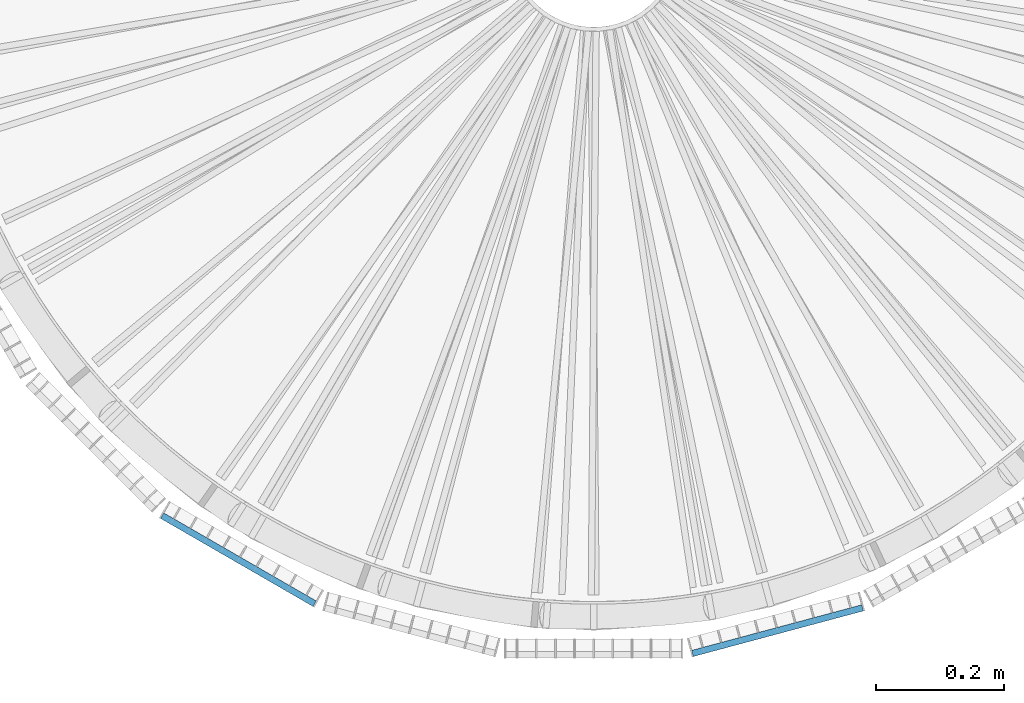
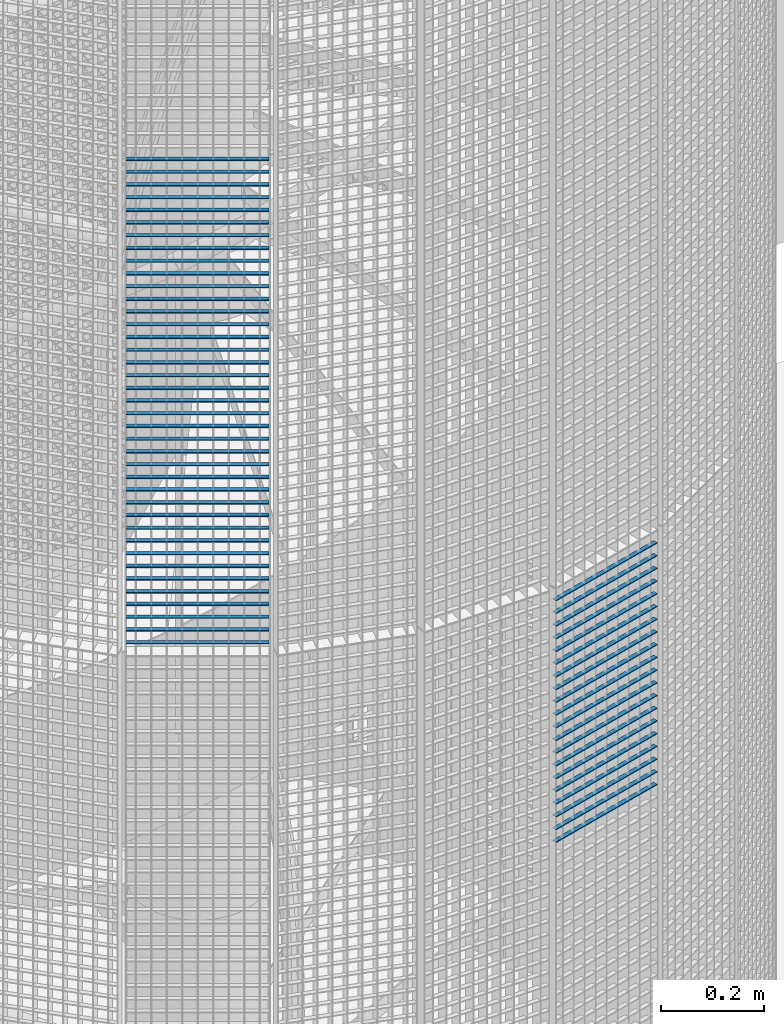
# One storey, part 141 of 1183: 59 beams, 2 elements without a shape of their own.
"""IFC2X3 building model written with IfcOpenShell, lengths in millimetres."""

from ifc_helpers import new_model, si_unit, frame, origin_with_axes, origin_2d_with_axis, place, context, subcontext, project, spatial, rectangle, extrude, material, type_object, element, aggregate, save


model = new_model("IFC2X3")

# Units and contexts
model_context = context("Model", 3, precision=1e-05, world=origin_with_axes())
body_context = subcontext(model_context, "Body", "Model", "MODEL_VIEW")
ifc_project = project(units=[si_unit("LENGTHUNIT", "METRE", prefix="MILLI"), si_unit("AREAUNIT", "SQUARE_METRE"), si_unit("VOLUMEUNIT", "CUBIC_METRE"), si_unit("MASSUNIT", "GRAM", prefix="KILO"), si_unit("TIMEUNIT", "SECOND"), si_unit("PLANEANGLEUNIT", "RADIAN"), si_unit("SOLIDANGLEUNIT", "STERADIAN"), si_unit("THERMODYNAMICTEMPERATUREUNIT", "DEGREE_CELSIUS"), si_unit("LUMINOUSINTENSITYUNIT", "LUMEN")], contexts=[model_context])

# Site, building, storey
site_placement = place(None, origin_with_axes())
site = spatial("IfcSite", under=ifc_project, at=site_placement, Name="Undefined", CompositionType="ELEMENT")
building_placement = place(site_placement, origin_with_axes())
building = spatial("IfcBuilding", under=site, at=building_placement, Name="Undefined", CompositionType="ELEMENT")
storey_placement = place(building_placement, origin_with_axes())
storey = spatial("IfcBuildingStorey", under=building, at=storey_placement, Name="Undefined", CompositionType="ELEMENT", Elevation=0.0)

# Assembly, beams
assembly_1_placement = place(storey_placement, origin_with_axes())
assembly_1 = element("IfcElementAssembly", 1, at=assembly_1_placement, inside=storey, Name="BORDURE", AssemblyPlace="NOTDEFINED", PredefinedType="NOTDEFINED")
ifc_material = material(Name="STEEL/S235JR")
beam_type = type_object("IfcBeamType", Name="PL2*10", PredefinedType="NOTDEFINED")
beam_1_placement = place(assembly_1_placement, frame((-676.248044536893, -895.303964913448, 16170.0), z_axis=(-0.49999999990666, -0.866025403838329, 0.0), x_axis=(0.866025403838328, -0.49999999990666, 0.0)))
beam_1 = element("IfcBeam", 2, at=beam_1_placement, type_object=beam_type, material=ifc_material, Name="ENTRETOISE", context=body_context, shape_type="SweptSolid", body=[
    extrude(rectangle(XDim=2.0, YDim=10.0, at=origin_2d_with_axis()), frame((275.999999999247, 9.09494701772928e-13, 1.53210777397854e-14), z_axis=(-1.0, 0.0, 0.0), x_axis=(0.0, -1.0, 0.0)), (0.0, 0.0, 1.0), 276.0),
])
beam_2_placement = place(assembly_1_placement, frame((-676.248044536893, -895.303964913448, 16140.0), z_axis=(-0.49999999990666, -0.866025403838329, 0.0), x_axis=(0.866025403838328, -0.49999999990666, 0.0)))
beam_2 = element("IfcBeam", 3, at=beam_2_placement, type_object=beam_type, material=ifc_material, Name="ENTRETOISE", context=body_context, shape_type="SweptSolid", body=[
    extrude(rectangle(XDim=2.0, YDim=10.0, at=origin_2d_with_axis()), frame((275.999999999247, 9.09494701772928e-13, 1.53210777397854e-14), z_axis=(-1.0, 0.0, 0.0), x_axis=(0.0, -1.0, 0.0)), (0.0, 0.0, 1.0), 276.0),
])
beam_3_placement = place(assembly_1_placement, frame((-676.248044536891, -895.303964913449, 15720.0), z_axis=(-0.49999999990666, -0.866025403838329, 0.0), x_axis=(0.866025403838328, -0.49999999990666, 0.0)))
beam_3 = element("IfcBeam", 4, at=beam_3_placement, type_object=beam_type, material=ifc_material, Name="ENTRETOISE", context=body_context, shape_type="SweptSolid", body=[
    extrude(rectangle(XDim=2.0, YDim=10.0, at=origin_2d_with_axis()), frame((275.999999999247, 9.09494701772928e-13, 1.53210777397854e-14), z_axis=(-1.0, 0.0, 0.0), x_axis=(0.0, -1.0, 0.0)), (0.0, 0.0, 1.0), 276.0),
])
beam_4_placement = place(assembly_1_placement, frame((-676.248044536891, -895.303964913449, 15690.0), z_axis=(-0.49999999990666, -0.866025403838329, 0.0), x_axis=(0.866025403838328, -0.49999999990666, 0.0)))
beam_4 = element("IfcBeam", 5, at=beam_4_placement, type_object=beam_type, material=ifc_material, Name="ENTRETOISE", context=body_context, shape_type="SweptSolid", body=[
    extrude(rectangle(XDim=2.0, YDim=10.0, at=origin_2d_with_axis()), frame((275.999999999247, 9.09494701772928e-13, 1.53210777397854e-14), z_axis=(-1.0, 0.0, 0.0), x_axis=(0.0, -1.0, 0.0)), (0.0, 0.0, 1.0), 276.0),
])
beam_5_placement = place(assembly_1_placement, frame((-676.248044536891, -895.303964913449, 15750.0), z_axis=(-0.49999999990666, -0.866025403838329, 0.0), x_axis=(0.866025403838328, -0.49999999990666, 0.0)))
beam_5 = element("IfcBeam", 6, at=beam_5_placement, type_object=beam_type, material=ifc_material, Name="ENTRETOISE", context=body_context, shape_type="SweptSolid", body=[
    extrude(rectangle(XDim=2.0, YDim=10.0, at=origin_2d_with_axis()), frame((275.999999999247, 9.09494701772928e-13, 1.53210777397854e-14), z_axis=(-1.0, 0.0, 0.0), x_axis=(0.0, -1.0, 0.0)), (0.0, 0.0, 1.0), 276.0),
])
beam_6_placement = place(assembly_1_placement, frame((-676.248044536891, -895.303964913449, 15660.0), z_axis=(-0.49999999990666, -0.866025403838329, 0.0), x_axis=(0.866025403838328, -0.49999999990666, 0.0)))
beam_6 = element("IfcBeam", 7, at=beam_6_placement, type_object=beam_type, material=ifc_material, Name="ENTRETOISE", context=body_context, shape_type="SweptSolid", body=[
    extrude(rectangle(XDim=2.0, YDim=10.0, at=origin_2d_with_axis()), frame((275.999999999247, 9.09494701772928e-13, 1.53210777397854e-14), z_axis=(-1.0, 0.0, 0.0), x_axis=(0.0, -1.0, 0.0)), (0.0, 0.0, 1.0), 276.0),
])
beam_7_placement = place(assembly_1_placement, frame((-676.248044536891, -895.303964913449, 15630.0), z_axis=(-0.49999999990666, -0.866025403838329, 0.0), x_axis=(0.866025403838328, -0.49999999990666, 0.0)))
beam_7 = element("IfcBeam", 8, at=beam_7_placement, type_object=beam_type, material=ifc_material, Name="ENTRETOISE", context=body_context, shape_type="SweptSolid", body=[
    extrude(rectangle(XDim=2.0, YDim=10.0, at=origin_2d_with_axis()), frame((275.999999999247, 9.09494701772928e-13, 1.53210777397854e-14), z_axis=(-1.0, 0.0, 0.0), x_axis=(0.0, -1.0, 0.0)), (0.0, 0.0, 1.0), 276.0),
])
beam_8_placement = place(assembly_1_placement, frame((-676.248044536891, -895.303964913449, 15780.0), z_axis=(-0.49999999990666, -0.866025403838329, 0.0), x_axis=(0.866025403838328, -0.49999999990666, 0.0)))
beam_8 = element("IfcBeam", 9, at=beam_8_placement, type_object=beam_type, material=ifc_material, Name="ENTRETOISE", context=body_context, shape_type="SweptSolid", body=[
    extrude(rectangle(XDim=2.0, YDim=10.0, at=origin_2d_with_axis()), frame((275.999999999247, 9.09494701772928e-13, 1.53210777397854e-14), z_axis=(-1.0, 0.0, 0.0), x_axis=(0.0, -1.0, 0.0)), (0.0, 0.0, 1.0), 276.0),
])
beam_9_placement = place(assembly_1_placement, frame((-676.248044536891, -895.30396491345, 15600.0), z_axis=(-0.49999999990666, -0.866025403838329, 0.0), x_axis=(0.866025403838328, -0.49999999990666, 0.0)))
beam_9 = element("IfcBeam", 10, at=beam_9_placement, type_object=beam_type, material=ifc_material, Name="ENTRETOISE", context=body_context, shape_type="SweptSolid", body=[
    extrude(rectangle(XDim=2.0, YDim=10.0, at=origin_2d_with_axis()), frame((275.999999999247, 9.09494701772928e-13, 1.53210777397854e-14), z_axis=(-1.0, 0.0, 0.0), x_axis=(0.0, -1.0, 0.0)), (0.0, 0.0, 1.0), 276.0),
])
beam_10_placement = place(assembly_1_placement, frame((-676.248044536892, -895.303964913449, 15810.0), z_axis=(-0.49999999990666, -0.866025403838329, 0.0), x_axis=(0.866025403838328, -0.49999999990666, 0.0)))
beam_10 = element("IfcBeam", 11, at=beam_10_placement, type_object=beam_type, material=ifc_material, Name="ENTRETOISE", context=body_context, shape_type="SweptSolid", body=[
    extrude(rectangle(XDim=2.0, YDim=10.0, at=origin_2d_with_axis()), frame((275.999999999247, 9.09494701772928e-13, 1.53210777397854e-14), z_axis=(-1.0, 0.0, 0.0), x_axis=(0.0, -1.0, 0.0)), (0.0, 0.0, 1.0), 276.0),
])
beam_11_placement = place(assembly_1_placement, frame((-676.248044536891, -895.30396491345, 15570.0), z_axis=(-0.49999999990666, -0.866025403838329, 0.0), x_axis=(0.866025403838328, -0.49999999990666, 0.0)))
beam_11 = element("IfcBeam", 12, at=beam_11_placement, type_object=beam_type, material=ifc_material, Name="ENTRETOISE", context=body_context, shape_type="SweptSolid", body=[
    extrude(rectangle(XDim=2.0, YDim=10.0, at=origin_2d_with_axis()), frame((275.999999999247, 9.09494701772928e-13, 1.53210777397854e-14), z_axis=(-1.0, 0.0, 0.0), x_axis=(0.0, -1.0, 0.0)), (0.0, 0.0, 1.0), 276.0),
])
beam_12_placement = place(assembly_1_placement, frame((-676.248044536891, -895.30396491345, 15540.0), z_axis=(-0.49999999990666, -0.866025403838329, 0.0), x_axis=(0.866025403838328, -0.49999999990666, 0.0)))
beam_12 = element("IfcBeam", 13, at=beam_12_placement, type_object=beam_type, material=ifc_material, Name="ENTRETOISE", context=body_context, shape_type="SweptSolid", body=[
    extrude(rectangle(XDim=2.0, YDim=10.0, at=origin_2d_with_axis()), frame((275.999999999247, 9.09494701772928e-13, 1.53210777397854e-14), z_axis=(-1.0, 0.0, 0.0), x_axis=(0.0, -1.0, 0.0)), (0.0, 0.0, 1.0), 276.0),
])
beam_13_placement = place(assembly_1_placement, frame((-676.248044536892, -895.303964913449, 15840.0), z_axis=(-0.49999999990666, -0.866025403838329, 0.0), x_axis=(0.866025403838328, -0.49999999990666, 0.0)))
beam_13 = element("IfcBeam", 14, at=beam_13_placement, type_object=beam_type, material=ifc_material, Name="ENTRETOISE", context=body_context, shape_type="SweptSolid", body=[
    extrude(rectangle(XDim=2.0, YDim=10.0, at=origin_2d_with_axis()), frame((275.999999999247, 9.09494701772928e-13, 1.53210777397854e-14), z_axis=(-1.0, 0.0, 0.0), x_axis=(0.0, -1.0, 0.0)), (0.0, 0.0, 1.0), 276.0),
])
beam_14_placement = place(assembly_1_placement, frame((-676.248044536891, -895.303964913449, 15510.0), z_axis=(-0.49999999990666, -0.866025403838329, 0.0), x_axis=(0.866025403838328, -0.49999999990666, 0.0)))
beam_14 = element("IfcBeam", 15, at=beam_14_placement, type_object=beam_type, material=ifc_material, Name="ENTRETOISE", context=body_context, shape_type="SweptSolid", body=[
    extrude(rectangle(XDim=2.0, YDim=10.0, at=origin_2d_with_axis()), frame((275.999999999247, 9.09494701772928e-13, 1.53210777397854e-14), z_axis=(-1.0, 0.0, 0.0), x_axis=(0.0, -1.0, 0.0)), (0.0, 0.0, 1.0), 276.0),
])
beam_15_placement = place(assembly_1_placement, frame((-676.248044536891, -895.303964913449, 15480.0), z_axis=(-0.49999999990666, -0.866025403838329, 0.0), x_axis=(0.866025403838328, -0.49999999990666, 0.0)))
beam_15 = element("IfcBeam", 16, at=beam_15_placement, type_object=beam_type, material=ifc_material, Name="ENTRETOISE", context=body_context, shape_type="SweptSolid", body=[
    extrude(rectangle(XDim=2.0, YDim=10.0, at=origin_2d_with_axis()), frame((275.999999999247, 9.09494701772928e-13, 1.53210777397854e-14), z_axis=(-1.0, 0.0, 0.0), x_axis=(0.0, -1.0, 0.0)), (0.0, 0.0, 1.0), 276.0),
])
beam_16_placement = place(assembly_1_placement, frame((-676.248044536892, -895.303964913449, 15870.0), z_axis=(-0.49999999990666, -0.866025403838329, 0.0), x_axis=(0.866025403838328, -0.49999999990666, 0.0)))
beam_16 = element("IfcBeam", 17, at=beam_16_placement, type_object=beam_type, material=ifc_material, Name="ENTRETOISE", context=body_context, shape_type="SweptSolid", body=[
    extrude(rectangle(XDim=2.0, YDim=10.0, at=origin_2d_with_axis()), frame((275.999999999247, 9.09494701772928e-13, 1.53210777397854e-14), z_axis=(-1.0, 0.0, 0.0), x_axis=(0.0, -1.0, 0.0)), (0.0, 0.0, 1.0), 276.0),
])
beam_17_placement = place(assembly_1_placement, frame((-676.248044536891, -895.30396491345, 15450.0), z_axis=(-0.49999999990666, -0.866025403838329, 0.0), x_axis=(0.866025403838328, -0.49999999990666, 0.0)))
beam_17 = element("IfcBeam", 18, at=beam_17_placement, type_object=beam_type, material=ifc_material, Name="ENTRETOISE", context=body_context, shape_type="SweptSolid", body=[
    extrude(rectangle(XDim=2.0, YDim=10.0, at=origin_2d_with_axis()), frame((275.999999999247, 9.09494701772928e-13, 1.53210777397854e-14), z_axis=(-1.0, 0.0, 0.0), x_axis=(0.0, -1.0, 0.0)), (0.0, 0.0, 1.0), 276.0),
])
beam_18_placement = place(assembly_1_placement, frame((-676.24804453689, -895.30396491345, 15420.0), z_axis=(-0.49999999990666, -0.866025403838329, 0.0), x_axis=(0.866025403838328, -0.49999999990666, 0.0)))
beam_18 = element("IfcBeam", 19, at=beam_18_placement, type_object=beam_type, material=ifc_material, Name="ENTRETOISE", context=body_context, shape_type="SweptSolid", body=[
    extrude(rectangle(XDim=2.0, YDim=10.0, at=origin_2d_with_axis()), frame((275.999999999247, 9.09494701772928e-13, 1.53210777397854e-14), z_axis=(-1.0, 0.0, 0.0), x_axis=(0.0, -1.0, 0.0)), (0.0, 0.0, 1.0), 276.0),
])
beam_19_placement = place(assembly_1_placement, frame((-676.248044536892, -895.303964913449, 15900.0), z_axis=(-0.49999999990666, -0.866025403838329, 0.0), x_axis=(0.866025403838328, -0.49999999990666, 0.0)))
beam_19 = element("IfcBeam", 20, at=beam_19_placement, type_object=beam_type, material=ifc_material, Name="ENTRETOISE", context=body_context, shape_type="SweptSolid", body=[
    extrude(rectangle(XDim=2.0, YDim=10.0, at=origin_2d_with_axis()), frame((275.999999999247, 9.09494701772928e-13, 1.53210777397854e-14), z_axis=(-1.0, 0.0, 0.0), x_axis=(0.0, -1.0, 0.0)), (0.0, 0.0, 1.0), 276.0),
])
beam_20_placement = place(assembly_1_placement, frame((-676.24804453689, -895.30396491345, 15390.0), z_axis=(-0.49999999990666, -0.866025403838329, 0.0), x_axis=(0.866025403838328, -0.49999999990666, 0.0)))
beam_20 = element("IfcBeam", 21, at=beam_20_placement, type_object=beam_type, material=ifc_material, Name="ENTRETOISE", context=body_context, shape_type="SweptSolid", body=[
    extrude(rectangle(XDim=2.0, YDim=10.0, at=origin_2d_with_axis()), frame((275.999999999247, 9.09494701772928e-13, 1.53210777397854e-14), z_axis=(-1.0, 0.0, 0.0), x_axis=(0.0, -1.0, 0.0)), (0.0, 0.0, 1.0), 276.0),
])
beam_21_placement = place(assembly_1_placement, frame((-676.248044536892, -895.303964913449, 15930.0), z_axis=(-0.49999999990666, -0.866025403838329, 0.0), x_axis=(0.866025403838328, -0.49999999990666, 0.0)))
beam_21 = element("IfcBeam", 22, at=beam_21_placement, type_object=beam_type, material=ifc_material, Name="ENTRETOISE", context=body_context, shape_type="SweptSolid", body=[
    extrude(rectangle(XDim=2.0, YDim=10.0, at=origin_2d_with_axis()), frame((275.999999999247, 9.09494701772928e-13, 1.53210777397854e-14), z_axis=(-1.0, 0.0, 0.0), x_axis=(0.0, -1.0, 0.0)), (0.0, 0.0, 1.0), 276.0),
])
beam_22_placement = place(assembly_1_placement, frame((-676.24804453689, -895.30396491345, 15360.0), z_axis=(-0.49999999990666, -0.866025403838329, 0.0), x_axis=(0.866025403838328, -0.49999999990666, 0.0)))
beam_22 = element("IfcBeam", 23, at=beam_22_placement, type_object=beam_type, material=ifc_material, Name="ENTRETOISE", context=body_context, shape_type="SweptSolid", body=[
    extrude(rectangle(XDim=2.0, YDim=10.0, at=origin_2d_with_axis()), frame((275.999999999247, 9.09494701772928e-13, 1.53210777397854e-14), z_axis=(-1.0, 0.0, 0.0), x_axis=(0.0, -1.0, 0.0)), (0.0, 0.0, 1.0), 276.0),
])
beam_23_placement = place(assembly_1_placement, frame((-676.24804453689, -895.30396491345, 15330.0), z_axis=(-0.49999999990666, -0.866025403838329, 0.0), x_axis=(0.866025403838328, -0.49999999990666, 0.0)))
beam_23 = element("IfcBeam", 24, at=beam_23_placement, type_object=beam_type, material=ifc_material, Name="ENTRETOISE", context=body_context, shape_type="SweptSolid", body=[
    extrude(rectangle(XDim=2.0, YDim=10.0, at=origin_2d_with_axis()), frame((275.999999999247, 9.09494701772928e-13, 1.53210777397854e-14), z_axis=(-1.0, 0.0, 0.0), x_axis=(0.0, -1.0, 0.0)), (0.0, 0.0, 1.0), 276.0),
])
beam_24_placement = place(assembly_1_placement, frame((-676.248044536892, -895.303964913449, 15960.0), z_axis=(-0.49999999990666, -0.866025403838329, 0.0), x_axis=(0.866025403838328, -0.49999999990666, 0.0)))
beam_24 = element("IfcBeam", 25, at=beam_24_placement, type_object=beam_type, material=ifc_material, Name="ENTRETOISE", context=body_context, shape_type="SweptSolid", body=[
    extrude(rectangle(XDim=2.0, YDim=10.0, at=origin_2d_with_axis()), frame((275.999999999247, 9.09494701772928e-13, 1.53210777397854e-14), z_axis=(-1.0, 0.0, 0.0), x_axis=(0.0, -1.0, 0.0)), (0.0, 0.0, 1.0), 276.0),
])
beam_25_placement = place(assembly_1_placement, frame((-676.24804453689, -895.30396491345, 15300.0), z_axis=(-0.49999999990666, -0.866025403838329, 0.0), x_axis=(0.866025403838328, -0.49999999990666, 0.0)))
beam_25 = element("IfcBeam", 26, at=beam_25_placement, type_object=beam_type, material=ifc_material, Name="ENTRETOISE", context=body_context, shape_type="SweptSolid", body=[
    extrude(rectangle(XDim=2.0, YDim=10.0, at=origin_2d_with_axis()), frame((275.999999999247, 9.09494701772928e-13, 1.53210777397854e-14), z_axis=(-1.0, 0.0, 0.0), x_axis=(0.0, -1.0, 0.0)), (0.0, 0.0, 1.0), 276.0),
])
beam_26_placement = place(assembly_1_placement, frame((-676.24804453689, -895.30396491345, 15270.0), z_axis=(-0.49999999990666, -0.866025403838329, 0.0), x_axis=(0.866025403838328, -0.49999999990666, 0.0)))
beam_26 = element("IfcBeam", 27, at=beam_26_placement, type_object=beam_type, material=ifc_material, Name="ENTRETOISE", context=body_context, shape_type="SweptSolid", body=[
    extrude(rectangle(XDim=2.0, YDim=10.0, at=origin_2d_with_axis()), frame((275.999999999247, 9.09494701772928e-13, 1.53210777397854e-14), z_axis=(-1.0, 0.0, 0.0), x_axis=(0.0, -1.0, 0.0)), (0.0, 0.0, 1.0), 276.0),
])
beam_27_placement = place(assembly_1_placement, frame((-676.248044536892, -895.303964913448, 15990.0), z_axis=(-0.49999999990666, -0.866025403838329, 0.0), x_axis=(0.866025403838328, -0.49999999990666, 0.0)))
beam_27 = element("IfcBeam", 28, at=beam_27_placement, type_object=beam_type, material=ifc_material, Name="ENTRETOISE", context=body_context, shape_type="SweptSolid", body=[
    extrude(rectangle(XDim=2.0, YDim=10.0, at=origin_2d_with_axis()), frame((275.999999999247, 9.09494701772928e-13, 1.53210777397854e-14), z_axis=(-1.0, 0.0, 0.0), x_axis=(0.0, -1.0, 0.0)), (0.0, 0.0, 1.0), 276.0),
])
beam_28_placement = place(assembly_1_placement, frame((-676.24804453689, -895.30396491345, 15240.0), z_axis=(-0.49999999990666, -0.866025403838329, 0.0), x_axis=(0.866025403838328, -0.49999999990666, 0.0)))
beam_28 = element("IfcBeam", 29, at=beam_28_placement, type_object=beam_type, material=ifc_material, Name="ENTRETOISE", context=body_context, shape_type="SweptSolid", body=[
    extrude(rectangle(XDim=2.0, YDim=10.0, at=origin_2d_with_axis()), frame((275.999999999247, 9.09494701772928e-13, 1.53210777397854e-14), z_axis=(-1.0, 0.0, 0.0), x_axis=(0.0, -1.0, 0.0)), (0.0, 0.0, 1.0), 276.0),
])
beam_29_placement = place(assembly_1_placement, frame((-676.248044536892, -895.303964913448, 16020.0), z_axis=(-0.49999999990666, -0.866025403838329, 0.0), x_axis=(0.866025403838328, -0.49999999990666, 0.0)))
beam_29 = element("IfcBeam", 30, at=beam_29_placement, type_object=beam_type, material=ifc_material, Name="ENTRETOISE", context=body_context, shape_type="SweptSolid", body=[
    extrude(rectangle(XDim=2.0, YDim=10.0, at=origin_2d_with_axis()), frame((275.999999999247, 9.09494701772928e-13, 1.53210777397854e-14), z_axis=(-1.0, 0.0, 0.0), x_axis=(0.0, -1.0, 0.0)), (0.0, 0.0, 1.0), 276.0),
])
beam_30_placement = place(assembly_1_placement, frame((-676.24804453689, -895.30396491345, 15210.0), z_axis=(-0.49999999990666, -0.866025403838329, 0.0), x_axis=(0.866025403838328, -0.49999999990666, 0.0)))
beam_30 = element("IfcBeam", 31, at=beam_30_placement, type_object=beam_type, material=ifc_material, Name="ENTRETOISE", context=body_context, shape_type="SweptSolid", body=[
    extrude(rectangle(XDim=2.0, YDim=10.0, at=origin_2d_with_axis()), frame((275.999999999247, 9.09494701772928e-13, 1.53210777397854e-14), z_axis=(-1.0, 0.0, 0.0), x_axis=(0.0, -1.0, 0.0)), (0.0, 0.0, 1.0), 276.0),
])
beam_31_placement = place(assembly_1_placement, frame((-676.24804453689, -895.30396491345, 15180.0), z_axis=(-0.49999999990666, -0.866025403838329, 0.0), x_axis=(0.866025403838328, -0.49999999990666, 0.0)))
beam_31 = element("IfcBeam", 32, at=beam_31_placement, type_object=beam_type, material=ifc_material, Name="ENTRETOISE", context=body_context, shape_type="SweptSolid", body=[
    extrude(rectangle(XDim=2.0, YDim=10.0, at=origin_2d_with_axis()), frame((275.999999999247, 9.09494701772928e-13, 1.53210777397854e-14), z_axis=(-1.0, 0.0, 0.0), x_axis=(0.0, -1.0, 0.0)), (0.0, 0.0, 1.0), 276.0),
])
beam_32_placement = place(assembly_1_placement, frame((-676.248044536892, -895.303964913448, 16050.0), z_axis=(-0.49999999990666, -0.866025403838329, 0.0), x_axis=(0.866025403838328, -0.49999999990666, 0.0)))
beam_32 = element("IfcBeam", 33, at=beam_32_placement, type_object=beam_type, material=ifc_material, Name="ENTRETOISE", context=body_context, shape_type="SweptSolid", body=[
    extrude(rectangle(XDim=2.0, YDim=10.0, at=origin_2d_with_axis()), frame((275.999999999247, 9.09494701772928e-13, 1.53210777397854e-14), z_axis=(-1.0, 0.0, 0.0), x_axis=(0.0, -1.0, 0.0)), (0.0, 0.0, 1.0), 276.0),
])
beam_33_placement = place(assembly_1_placement, frame((-676.24804453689, -895.30396491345, 15150.0), z_axis=(-0.49999999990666, -0.866025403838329, 0.0), x_axis=(0.866025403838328, -0.49999999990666, 0.0)))
beam_33 = element("IfcBeam", 34, at=beam_33_placement, type_object=beam_type, material=ifc_material, Name="ENTRETOISE", context=body_context, shape_type="SweptSolid", body=[
    extrude(rectangle(XDim=2.0, YDim=10.0, at=origin_2d_with_axis()), frame((275.999999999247, 9.09494701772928e-13, 1.53210777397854e-14), z_axis=(-1.0, 0.0, 0.0), x_axis=(0.0, -1.0, 0.0)), (0.0, 0.0, 1.0), 276.0),
])
beam_34_placement = place(assembly_1_placement, frame((-676.248044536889, -895.30396491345, 15120.0), z_axis=(-0.49999999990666, -0.866025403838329, 0.0), x_axis=(0.866025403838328, -0.49999999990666, 0.0)))
beam_34 = element("IfcBeam", 35, at=beam_34_placement, type_object=beam_type, material=ifc_material, Name="ENTRETOISE", context=body_context, shape_type="SweptSolid", body=[
    extrude(rectangle(XDim=2.0, YDim=10.0, at=origin_2d_with_axis()), frame((275.999999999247, 9.09494701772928e-13, 1.53210777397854e-14), z_axis=(-1.0, 0.0, 0.0), x_axis=(0.0, -1.0, 0.0)), (0.0, 0.0, 1.0), 276.0),
])
beam_35_placement = place(assembly_1_placement, frame((-676.248044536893, -895.303964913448, 16080.0), z_axis=(-0.49999999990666, -0.866025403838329, 0.0), x_axis=(0.866025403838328, -0.49999999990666, 0.0)))
beam_35 = element("IfcBeam", 36, at=beam_35_placement, type_object=beam_type, material=ifc_material, Name="ENTRETOISE", context=body_context, shape_type="SweptSolid", body=[
    extrude(rectangle(XDim=2.0, YDim=10.0, at=origin_2d_with_axis()), frame((275.999999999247, 9.09494701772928e-13, 1.53210777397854e-14), z_axis=(-1.0, 0.0, 0.0), x_axis=(0.0, -1.0, 0.0)), (0.0, 0.0, 1.0), 276.0),
])
beam_36_placement = place(assembly_1_placement, frame((-676.248044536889, -895.30396491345, 15090.0), z_axis=(-0.49999999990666, -0.866025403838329, 0.0), x_axis=(0.866025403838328, -0.49999999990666, 0.0)))
beam_36 = element("IfcBeam", 37, at=beam_36_placement, type_object=beam_type, material=ifc_material, Name="ENTRETOISE", context=body_context, shape_type="SweptSolid", body=[
    extrude(rectangle(XDim=2.0, YDim=10.0, at=origin_2d_with_axis()), frame((275.999999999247, 9.09494701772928e-13, 1.53210777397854e-14), z_axis=(-1.0, 0.0, 0.0), x_axis=(0.0, -1.0, 0.0)), (0.0, 0.0, 1.0), 276.0),
])
beam_37_placement = place(assembly_1_placement, frame((-676.248044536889, -895.30396491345, 15060.0), z_axis=(-0.49999999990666, -0.866025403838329, 0.0), x_axis=(0.866025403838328, -0.49999999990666, 0.0)))
beam_37 = element("IfcBeam", 38, at=beam_37_placement, type_object=beam_type, material=ifc_material, Name="ENTRETOISE", context=body_context, shape_type="SweptSolid", body=[
    extrude(rectangle(XDim=2.0, YDim=10.0, at=origin_2d_with_axis()), frame((275.999999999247, 9.09494701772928e-13, 1.53210777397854e-14), z_axis=(-1.0, 0.0, 0.0), x_axis=(0.0, -1.0, 0.0)), (0.0, 0.0, 1.0), 276.0),
])
beam_38_placement = place(assembly_1_placement, frame((-676.248044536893, -895.303964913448, 16110.0), z_axis=(-0.49999999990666, -0.866025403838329, 0.0), x_axis=(0.866025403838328, -0.49999999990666, 0.0)))
beam_38 = element("IfcBeam", 39, at=beam_38_placement, type_object=beam_type, material=ifc_material, Name="ENTRETOISE", context=body_context, shape_type="SweptSolid", body=[
    extrude(rectangle(XDim=2.0, YDim=10.0, at=origin_2d_with_axis()), frame((275.999999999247, 9.09494701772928e-13, 1.53210777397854e-14), z_axis=(-1.0, 0.0, 0.0), x_axis=(0.0, -1.0, 0.0)), (0.0, 0.0, 1.0), 276.0),
])
beam_39_placement = place(assembly_1_placement, frame((-676.248044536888, -895.30396491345, 15030.0), z_axis=(-0.49999999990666, -0.866025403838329, 0.0), x_axis=(0.866025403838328, -0.49999999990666, 0.0)))
beam_39 = element("IfcBeam", 40, at=beam_39_placement, type_object=beam_type, material=ifc_material, Name="ENTRETOISE", context=body_context, shape_type="SweptSolid", body=[
    extrude(rectangle(XDim=2.0, YDim=10.0, at=origin_2d_with_axis()), frame((275.999999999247, 9.09494701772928e-13, 1.53210777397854e-14), z_axis=(-1.0, 0.0, 0.0), x_axis=(0.0, -1.0, 0.0)), (0.0, 0.0, 1.0), 276.0),
])
aggregate(assembly_1, [beam_1, beam_2, beam_3, beam_4, beam_5, beam_6, beam_7, beam_8, beam_9, beam_10, beam_11, beam_12, beam_13, beam_14, beam_15, beam_16, beam_17, beam_18, beam_19, beam_20, beam_21, beam_22, beam_23, beam_24, beam_25, beam_26, beam_27, beam_28, beam_29, beam_30, beam_31, beam_32, beam_33, beam_34, beam_35, beam_36, beam_37, beam_38, beam_39])

assembly_2_placement = place(storey_placement, origin_with_axes())
assembly_2 = element("IfcElementAssembly", 41, at=assembly_2_placement, inside=storey, Name="BORDURE", AssemblyPlace="NOTDEFINED", PredefinedType="NOTDEFINED")
beam_40_placement = place(assembly_2_placement, frame((154.895926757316, -1111.25508286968, 14970.0), z_axis=(0.258819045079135, -0.965925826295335, 0.0), x_axis=(0.965925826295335, 0.258819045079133, 0.0)))
beam_40 = element("IfcBeam", 42, at=beam_40_placement, type_object=beam_type, material=ifc_material, Name="ENTRETOISE", context=body_context, shape_type="SweptSolid", body=[
    extrude(rectangle(XDim=2.0, YDim=10.0, at=origin_2d_with_axis()), frame((275.999999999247, 9.09494701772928e-13, 1.53210777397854e-14), z_axis=(-1.0, 0.0, 0.0), x_axis=(0.0, -1.0, 0.0)), (0.0, 0.0, 1.0), 276.0),
])
beam_41_placement = place(assembly_2_placement, frame((154.895926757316, -1111.25508286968, 14940.0), z_axis=(0.258819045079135, -0.965925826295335, 0.0), x_axis=(0.965925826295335, 0.258819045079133, 0.0)))
beam_41 = element("IfcBeam", 43, at=beam_41_placement, type_object=beam_type, material=ifc_material, Name="ENTRETOISE", context=body_context, shape_type="SweptSolid", body=[
    extrude(rectangle(XDim=2.0, YDim=10.0, at=origin_2d_with_axis()), frame((275.999999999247, 9.09494701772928e-13, 1.53210777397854e-14), z_axis=(-1.0, 0.0, 0.0), x_axis=(0.0, -1.0, 0.0)), (0.0, 0.0, 1.0), 276.0),
])
beam_42_placement = place(assembly_2_placement, frame((154.895926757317, -1111.25508286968, 14910.0), z_axis=(0.258819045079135, -0.965925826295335, 0.0), x_axis=(0.965925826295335, 0.258819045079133, 0.0)))
beam_42 = element("IfcBeam", 44, at=beam_42_placement, type_object=beam_type, material=ifc_material, Name="ENTRETOISE", context=body_context, shape_type="SweptSolid", body=[
    extrude(rectangle(XDim=2.0, YDim=10.0, at=origin_2d_with_axis()), frame((275.999999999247, 9.09494701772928e-13, 1.53210777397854e-14), z_axis=(-1.0, 0.0, 0.0), x_axis=(0.0, -1.0, 0.0)), (0.0, 0.0, 1.0), 276.0),
])
beam_43_placement = place(assembly_2_placement, frame((154.895926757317, -1111.25508286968, 14880.0), z_axis=(0.258819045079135, -0.965925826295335, 0.0), x_axis=(0.965925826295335, 0.258819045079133, 0.0)))
beam_43 = element("IfcBeam", 45, at=beam_43_placement, type_object=beam_type, material=ifc_material, Name="ENTRETOISE", context=body_context, shape_type="SweptSolid", body=[
    extrude(rectangle(XDim=2.0, YDim=10.0, at=origin_2d_with_axis()), frame((275.999999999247, 9.09494701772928e-13, 1.53210777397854e-14), z_axis=(-1.0, 0.0, 0.0), x_axis=(0.0, -1.0, 0.0)), (0.0, 0.0, 1.0), 276.0),
])
beam_44_placement = place(assembly_2_placement, frame((154.895926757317, -1111.25508286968, 14850.0), z_axis=(0.258819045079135, -0.965925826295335, 0.0), x_axis=(0.965925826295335, 0.258819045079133, 0.0)))
beam_44 = element("IfcBeam", 46, at=beam_44_placement, type_object=beam_type, material=ifc_material, Name="ENTRETOISE", context=body_context, shape_type="SweptSolid", body=[
    extrude(rectangle(XDim=2.0, YDim=10.0, at=origin_2d_with_axis()), frame((275.999999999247, 9.09494701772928e-13, 1.53210777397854e-14), z_axis=(-1.0, 0.0, 0.0), x_axis=(0.0, -1.0, 0.0)), (0.0, 0.0, 1.0), 276.0),
])
beam_45_placement = place(assembly_2_placement, frame((154.895926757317, -1111.25508286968, 14820.0), z_axis=(0.258819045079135, -0.965925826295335, 0.0), x_axis=(0.965925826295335, 0.258819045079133, 0.0)))
beam_45 = element("IfcBeam", 47, at=beam_45_placement, type_object=beam_type, material=ifc_material, Name="ENTRETOISE", context=body_context, shape_type="SweptSolid", body=[
    extrude(rectangle(XDim=2.0, YDim=10.0, at=origin_2d_with_axis()), frame((275.999999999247, 9.09494701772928e-13, 1.53210777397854e-14), z_axis=(-1.0, 0.0, 0.0), x_axis=(0.0, -1.0, 0.0)), (0.0, 0.0, 1.0), 276.0),
])
beam_46_placement = place(assembly_2_placement, frame((154.895926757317, -1111.25508286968, 14790.0), z_axis=(0.258819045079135, -0.965925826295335, 0.0), x_axis=(0.965925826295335, 0.258819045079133, 0.0)))
beam_46 = element("IfcBeam", 48, at=beam_46_placement, type_object=beam_type, material=ifc_material, Name="ENTRETOISE", context=body_context, shape_type="SweptSolid", body=[
    extrude(rectangle(XDim=2.0, YDim=10.0, at=origin_2d_with_axis()), frame((275.999999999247, 9.09494701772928e-13, 1.53210777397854e-14), z_axis=(-1.0, 0.0, 0.0), x_axis=(0.0, -1.0, 0.0)), (0.0, 0.0, 1.0), 276.0),
])
beam_47_placement = place(assembly_2_placement, frame((154.895926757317, -1111.25508286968, 14760.0), z_axis=(0.258819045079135, -0.965925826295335, 0.0), x_axis=(0.965925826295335, 0.258819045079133, 0.0)))
beam_47 = element("IfcBeam", 49, at=beam_47_placement, type_object=beam_type, material=ifc_material, Name="ENTRETOISE", context=body_context, shape_type="SweptSolid", body=[
    extrude(rectangle(XDim=2.0, YDim=10.0, at=origin_2d_with_axis()), frame((275.999999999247, 9.09494701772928e-13, 1.53210777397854e-14), z_axis=(-1.0, 0.0, 0.0), x_axis=(0.0, -1.0, 0.0)), (0.0, 0.0, 1.0), 276.0),
])
beam_48_placement = place(assembly_2_placement, frame((154.895926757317, -1111.25508286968, 14730.0), z_axis=(0.258819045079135, -0.965925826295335, 0.0), x_axis=(0.965925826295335, 0.258819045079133, 0.0)))
beam_48 = element("IfcBeam", 50, at=beam_48_placement, type_object=beam_type, material=ifc_material, Name="ENTRETOISE", context=body_context, shape_type="SweptSolid", body=[
    extrude(rectangle(XDim=2.0, YDim=10.0, at=origin_2d_with_axis()), frame((275.999999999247, 9.09494701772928e-13, 1.53210777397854e-14), z_axis=(-1.0, 0.0, 0.0), x_axis=(0.0, -1.0, 0.0)), (0.0, 0.0, 1.0), 276.0),
])
beam_49_placement = place(assembly_2_placement, frame((154.895926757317, -1111.25508286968, 14700.0), z_axis=(0.258819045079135, -0.965925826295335, 0.0), x_axis=(0.965925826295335, 0.258819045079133, 0.0)))
beam_49 = element("IfcBeam", 51, at=beam_49_placement, type_object=beam_type, material=ifc_material, Name="ENTRETOISE", context=body_context, shape_type="SweptSolid", body=[
    extrude(rectangle(XDim=2.0, YDim=10.0, at=origin_2d_with_axis()), frame((275.999999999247, 9.09494701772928e-13, 1.53210777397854e-14), z_axis=(-1.0, 0.0, 0.0), x_axis=(0.0, -1.0, 0.0)), (0.0, 0.0, 1.0), 276.0),
])
beam_50_placement = place(assembly_2_placement, frame((154.895926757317, -1111.25508286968, 14670.0), z_axis=(0.258819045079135, -0.965925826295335, 0.0), x_axis=(0.965925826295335, 0.258819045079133, 0.0)))
beam_50 = element("IfcBeam", 52, at=beam_50_placement, type_object=beam_type, material=ifc_material, Name="ENTRETOISE", context=body_context, shape_type="SweptSolid", body=[
    extrude(rectangle(XDim=2.0, YDim=10.0, at=origin_2d_with_axis()), frame((275.999999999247, 9.09494701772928e-13, 1.53210777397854e-14), z_axis=(-1.0, 0.0, 0.0), x_axis=(0.0, -1.0, 0.0)), (0.0, 0.0, 1.0), 276.0),
])
beam_51_placement = place(assembly_2_placement, frame((154.895926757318, -1111.25508286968, 14640.0), z_axis=(0.258819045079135, -0.965925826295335, 0.0), x_axis=(0.965925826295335, 0.258819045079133, 0.0)))
beam_51 = element("IfcBeam", 53, at=beam_51_placement, type_object=beam_type, material=ifc_material, Name="ENTRETOISE", context=body_context, shape_type="SweptSolid", body=[
    extrude(rectangle(XDim=2.0, YDim=10.0, at=origin_2d_with_axis()), frame((275.999999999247, 9.09494701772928e-13, 1.53210777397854e-14), z_axis=(-1.0, 0.0, 0.0), x_axis=(0.0, -1.0, 0.0)), (0.0, 0.0, 1.0), 276.0),
])
beam_52_placement = place(assembly_2_placement, frame((154.895926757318, -1111.25508286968, 14610.0), z_axis=(0.258819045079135, -0.965925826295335, 0.0), x_axis=(0.965925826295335, 0.258819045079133, 0.0)))
beam_52 = element("IfcBeam", 54, at=beam_52_placement, type_object=beam_type, material=ifc_material, Name="ENTRETOISE", context=body_context, shape_type="SweptSolid", body=[
    extrude(rectangle(XDim=2.0, YDim=10.0, at=origin_2d_with_axis()), frame((275.999999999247, 9.09494701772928e-13, 1.53210777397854e-14), z_axis=(-1.0, 0.0, 0.0), x_axis=(0.0, -1.0, 0.0)), (0.0, 0.0, 1.0), 276.0),
])
beam_53_placement = place(assembly_2_placement, frame((154.895926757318, -1111.25508286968, 14580.0), z_axis=(0.258819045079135, -0.965925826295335, 0.0), x_axis=(0.965925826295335, 0.258819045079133, 0.0)))
beam_53 = element("IfcBeam", 55, at=beam_53_placement, type_object=beam_type, material=ifc_material, Name="ENTRETOISE", context=body_context, shape_type="SweptSolid", body=[
    extrude(rectangle(XDim=2.0, YDim=10.0, at=origin_2d_with_axis()), frame((275.999999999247, 9.09494701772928e-13, 1.53210777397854e-14), z_axis=(-1.0, 0.0, 0.0), x_axis=(0.0, -1.0, 0.0)), (0.0, 0.0, 1.0), 276.0),
])
beam_54_placement = place(assembly_2_placement, frame((154.895926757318, -1111.25508286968, 14550.0), z_axis=(0.258819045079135, -0.965925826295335, 0.0), x_axis=(0.965925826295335, 0.258819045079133, 0.0)))
beam_54 = element("IfcBeam", 56, at=beam_54_placement, type_object=beam_type, material=ifc_material, Name="ENTRETOISE", context=body_context, shape_type="SweptSolid", body=[
    extrude(rectangle(XDim=2.0, YDim=10.0, at=origin_2d_with_axis()), frame((275.999999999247, 9.09494701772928e-13, 1.53210777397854e-14), z_axis=(-1.0, 0.0, 0.0), x_axis=(0.0, -1.0, 0.0)), (0.0, 0.0, 1.0), 276.0),
])
beam_55_placement = place(assembly_2_placement, frame((154.895926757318, -1111.25508286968, 14520.0), z_axis=(0.258819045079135, -0.965925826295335, 0.0), x_axis=(0.965925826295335, 0.258819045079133, 0.0)))
beam_55 = element("IfcBeam", 57, at=beam_55_placement, type_object=beam_type, material=ifc_material, Name="ENTRETOISE", context=body_context, shape_type="SweptSolid", body=[
    extrude(rectangle(XDim=2.0, YDim=10.0, at=origin_2d_with_axis()), frame((275.999999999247, 9.09494701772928e-13, 1.53210777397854e-14), z_axis=(-1.0, 0.0, 0.0), x_axis=(0.0, -1.0, 0.0)), (0.0, 0.0, 1.0), 276.0),
])
beam_56_placement = place(assembly_2_placement, frame((154.895926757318, -1111.25508286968, 14490.0), z_axis=(0.258819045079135, -0.965925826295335, 0.0), x_axis=(0.965925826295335, 0.258819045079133, 0.0)))
beam_56 = element("IfcBeam", 58, at=beam_56_placement, type_object=beam_type, material=ifc_material, Name="ENTRETOISE", context=body_context, shape_type="SweptSolid", body=[
    extrude(rectangle(XDim=2.0, YDim=10.0, at=origin_2d_with_axis()), frame((275.999999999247, 9.09494701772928e-13, 1.53210777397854e-14), z_axis=(-1.0, 0.0, 0.0), x_axis=(0.0, -1.0, 0.0)), (0.0, 0.0, 1.0), 276.0),
])
beam_57_placement = place(assembly_2_placement, frame((154.895926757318, -1111.25508286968, 14460.0), z_axis=(0.258819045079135, -0.965925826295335, 0.0), x_axis=(0.965925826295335, 0.258819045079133, 0.0)))
beam_57 = element("IfcBeam", 59, at=beam_57_placement, type_object=beam_type, material=ifc_material, Name="ENTRETOISE", context=body_context, shape_type="SweptSolid", body=[
    extrude(rectangle(XDim=2.0, YDim=10.0, at=origin_2d_with_axis()), frame((275.999999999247, 9.09494701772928e-13, 1.53210777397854e-14), z_axis=(-1.0, 0.0, 0.0), x_axis=(0.0, -1.0, 0.0)), (0.0, 0.0, 1.0), 276.0),
])
beam_58_placement = place(assembly_2_placement, frame((154.895926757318, -1111.25508286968, 14430.0), z_axis=(0.258819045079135, -0.965925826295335, 0.0), x_axis=(0.965925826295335, 0.258819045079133, 0.0)))
beam_58 = element("IfcBeam", 60, at=beam_58_placement, type_object=beam_type, material=ifc_material, Name="ENTRETOISE", context=body_context, shape_type="SweptSolid", body=[
    extrude(rectangle(XDim=2.0, YDim=10.0, at=origin_2d_with_axis()), frame((275.999999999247, 9.09494701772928e-13, 1.53210777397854e-14), z_axis=(-1.0, 0.0, 0.0), x_axis=(0.0, -1.0, 0.0)), (0.0, 0.0, 1.0), 276.0),
])
beam_59_placement = place(assembly_2_placement, frame((154.895926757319, -1111.25508286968, 14400.0), z_axis=(0.258819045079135, -0.965925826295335, 0.0), x_axis=(0.965925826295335, 0.258819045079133, 0.0)))
beam_59 = element("IfcBeam", 61, at=beam_59_placement, type_object=beam_type, material=ifc_material, Name="ENTRETOISE", context=body_context, shape_type="SweptSolid", body=[
    extrude(rectangle(XDim=2.0, YDim=10.0, at=origin_2d_with_axis()), frame((275.999999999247, 9.09494701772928e-13, 1.53210777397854e-14), z_axis=(-1.0, 0.0, 0.0), x_axis=(0.0, -1.0, 0.0)), (0.0, 0.0, 1.0), 276.0),
])
aggregate(assembly_2, [beam_40, beam_41, beam_42, beam_43, beam_44, beam_45, beam_46, beam_47, beam_48, beam_49, beam_50, beam_51, beam_52, beam_53, beam_54, beam_55, beam_56, beam_57, beam_58, beam_59])

save(model, "model.ifc")
